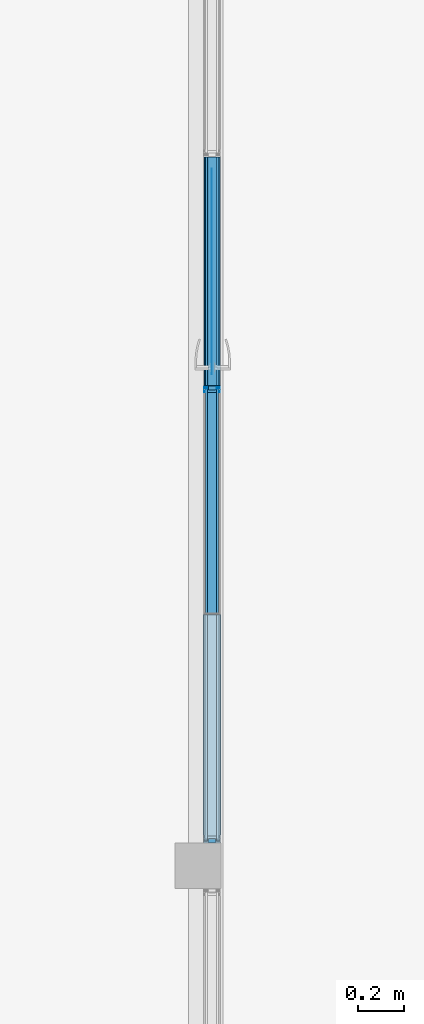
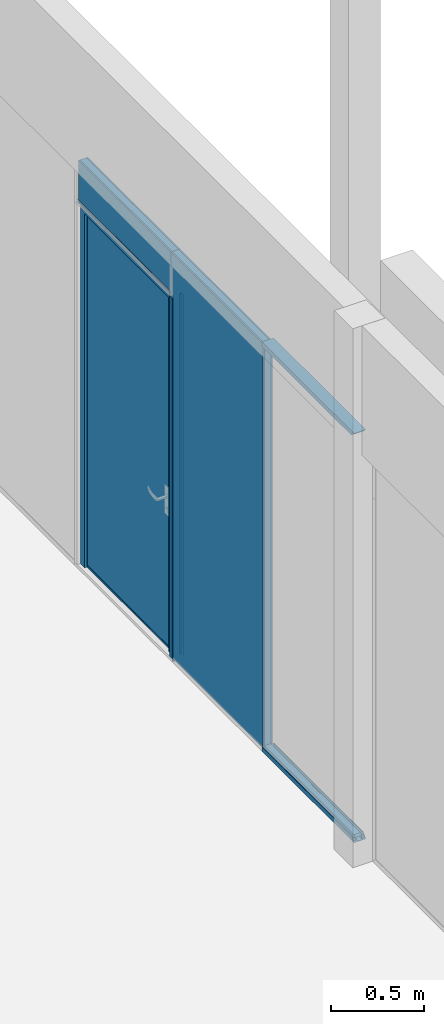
# One storey, part 34 of 65: 11 building element parts, 8 elements without a shape of their own.
"""IFC2X3 building model written with IfcOpenShell, lengths in millimetres."""

from ifc_helpers import new_model, entity, si_unit, converted_unit, derived_unit, money_unit, direction, frame, origin_with_axes, place, context, subcontext, project, spatial, open_shell, faceted_brep, surface_model, material, type_object, element, aggregate, save


model = new_model("IFC2X3")

# Units and contexts
model_context = context("Model", 3, precision=0.01, world=origin_with_axes(), true_north=direction((0.0, 1.0)))
body_context = subcontext(model_context, "Body", "Model", "MODEL_VIEW")
ifc_project = project(units=[si_unit("LENGTHUNIT", "METRE", prefix="MILLI"), si_unit("AREAUNIT", "SQUARE_METRE"), si_unit("VOLUMEUNIT", "CUBIC_METRE"), converted_unit("PLANEANGLEUNIT", "DEGREE", entity("IfcPlaneAngleMeasure", 0.0174532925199), si_unit("PLANEANGLEUNIT", "RADIAN"), dimensions=[0, 0, 0, 0, 0, 0, 0]), si_unit("SOLIDANGLEUNIT", "STERADIAN"), money_unit("EUR"), converted_unit("TIMEUNIT", "Year", entity("IfcTimeMeasure", 31556926.0), si_unit("TIMEUNIT", "SECOND"), dimensions=[0, 0, 1, 0, 0, 0, 0]), si_unit("MASSUNIT", "GRAM", prefix="KILO"), si_unit("THERMODYNAMICTEMPERATUREUNIT", "DEGREE_CELSIUS"), si_unit("LUMINOUSINTENSITYUNIT", "LUMEN"), si_unit("ENERGYUNIT", "JOULE", prefix="MEGA"), derived_unit("THERMALCONDUCTANCEUNIT", [(si_unit("POWERUNIT", "WATT"), 1), (si_unit("LENGTHUNIT", "METRE"), -1), (si_unit("THERMODYNAMICTEMPERATUREUNIT", "KELVIN"), -1)]), derived_unit("SPECIFICHEATCAPACITYUNIT", [(si_unit("ENERGYUNIT", "JOULE"), 1), (si_unit("MASSUNIT", "GRAM", prefix="KILO"), -1), (si_unit("THERMODYNAMICTEMPERATUREUNIT", "KELVIN"), -1)]), derived_unit("MASSDENSITYUNIT", [(si_unit("MASSUNIT", "GRAM", prefix="KILO"), 1), (si_unit("VOLUMEUNIT", "CUBIC_METRE"), -1)])], contexts=[model_context])

# Site, building, storey
site_placement = place(None, origin_with_axes())
site = spatial("IfcSite", under=ifc_project, at=site_placement, Name="Puškini 31, Narva", CompositionType="ELEMENT")
building_placement = place(site_placement, origin_with_axes())
building = spatial("IfcBuilding", under=site, at=building_placement, Name="Narva Riigigümnaasium", CompositionType="ELEMENT")
storey_placement = place(building_placement, frame((0.0, 0.0, -1320.0), z_axis=(0.0, 0.0, 1.0), x_axis=(1.0, 0.0, 0.0)))
storey = spatial("IfcBuildingStorey", under=building, at=storey_placement, Name="1.korrus -1.32", CompositionType="ELEMENT", Elevation=-1320.0)

# Curtain wall, plates, building element parts, door, members
curtain_wall_type = type_object("IfcCurtainWallType", Name="Curtain Wall Type", PredefinedType="NOTDEFINED")
curtain_wall_placement = place(storey_placement, frame((30362.9999948, 171898.750025, 0.0), z_axis=(0.0, 0.0, 1.0), x_axis=(1.0, 0.0, 0.0)))
curtain_wall = element("IfcCurtainWall", 1, at=curtain_wall_placement, inside=storey, type_object=curtain_wall_type, Name="G-SKLF-06")
plate_type_1 = type_object("IfcPlateType", Name="Siseklaasfassaad - Klaas 996 x 285 x 10", PredefinedType="CURTAIN_PANEL")
plate_1_placement = place(curtain_wall_placement, frame((0.0, 1064.53571429, 1457.14285714), z_axis=(0.0, 0.0, 1.0), x_axis=(0.0, -1.0, 0.0)))
plate_1 = element("IfcPlate", 2, at=plate_1_placement, type_object=plate_type_1, Name="G-SKLF-06-klaas", ObjectType="CURTAIN_PANEL")
ifc_material_1 = material(Name="VKR-05_Klaas")
building_element_part_1_placement = place(plate_1_placement, origin_with_axes())
building_element_part_1 = element("IfcBuildingElementPart", 3, at=building_element_part_1_placement, material=ifc_material_1, Name="VKR-05_Klaas", context=body_context, shape_type="Brep", body=[
    faceted_brep([(-431.714272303, -29.0, 1227.85712945), (564.285700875, -29.0, 1227.85712945), (564.285700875, -20.0, 1227.85712945), (-431.714272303, -20.0, 1227.85712945), (-431.714272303, -29.0, 942.857156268), (-416.714258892, -29.0, 942.857156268), (-416.714258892, -29.0, -1457.14285714), (-402.214303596, -29.0, -1457.14285714), (-402.214303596, -29.0, -1442.14284373), (564.285700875, -29.0, -1442.14284373), (564.285700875, -20.0, -1442.14284373), (-402.214303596, -20.0, -1442.14284373), (-402.214303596, -20.0, -1457.14285714), (-416.714258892, -20.0, -1457.14285714), (-416.714258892, -20.0, 942.857156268), (-431.714272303, -20.0, 942.857156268)], [[[0, 1, 2, 3]], [[0, 4, 5, 6, 7, 8, 9, 1]], [[1, 9, 10, 2]], [[3, 2, 10, 11, 12, 13, 14, 15]], [[4, 0, 3, 15]], [[5, 4, 15, 14]], [[6, 5, 14, 13]], [[7, 6, 13, 12]], [[8, 7, 12, 11]], [[9, 8, 11, 10]]]),
    faceted_brep([(-431.714272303, 20.0, 1227.85712945), (564.285700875, 20.0, 1227.85712945), (564.285700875, 29.0, 1227.85712945), (-431.714272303, 29.0, 1227.85712945), (-431.714272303, 20.0, 942.857156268), (-416.714258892, 20.0, 942.857156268), (-416.714258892, 20.0, -1457.14285714), (-402.214303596, 20.0, -1457.14285714), (-402.214303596, 20.0, -1442.14284373), (564.285700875, 20.0, -1442.14284373), (564.285700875, 29.0, -1442.14284373), (-402.214303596, 29.0, -1442.14284373), (-402.214303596, 29.0, -1457.14285714), (-416.714258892, 29.0, -1457.14285714), (-416.714258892, 29.0, 942.857156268), (-431.714272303, 29.0, 942.857156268)], [[[0, 1, 2, 3]], [[0, 4, 5, 6, 7, 8, 9, 1]], [[1, 9, 10, 2]], [[3, 2, 10, 11, 12, 13, 14, 15]], [[4, 0, 3, 15]], [[5, 4, 15, 14]], [[6, 5, 14, 13]], [[7, 6, 13, 12]], [[8, 7, 12, 11]], [[9, 8, 11, 10]]]),
])
ifc_material_2 = material(Name="VKR-06_Õhkvahe")
building_element_part_2_placement = place(plate_1_placement, origin_with_axes())
building_element_part_2 = element("IfcBuildingElementPart", 4, at=building_element_part_2_placement, material=ifc_material_2, Name="VKR-06_Õhkvahe", context=body_context, shape_type="Brep", body=[
    faceted_brep([(-431.714272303, -20.0, 1227.85712945), (564.285700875, -20.0, 1227.85712945), (564.285700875, 20.0, 1227.85712945), (-431.714272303, 20.0, 1227.85712945), (-431.714272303, -20.0, 942.857156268), (-416.714258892, -20.0, 942.857156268), (-416.714258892, -20.0, -1457.14285714), (-402.214303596, -20.0, -1457.14285714), (-402.214303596, -20.0, -1442.14284373), (564.285700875, -20.0, -1442.14284373), (564.285700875, 20.0, -1442.14284373), (-402.214303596, 20.0, -1442.14284373), (-402.214303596, 20.0, -1457.14285714), (-416.714258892, 20.0, -1457.14285714), (-416.714258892, 20.0, 942.857156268), (-431.714272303, 20.0, 942.857156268)], [[[0, 1, 2, 3]], [[0, 4, 5, 6, 7, 8, 9, 1]], [[1, 9, 10, 2]], [[3, 2, 10, 11, 12, 13, 14, 15]], [[4, 0, 3, 15]], [[5, 4, 15, 14]], [[6, 5, 14, 13]], [[7, 6, 13, 12]], [[8, 7, 12, 11]], [[9, 8, 11, 10]]]),
])
aggregate(plate_1, [building_element_part_1, building_element_part_2])
door_style = type_object("IfcDoorStyle", Name="968 x 2365 x 20", ConstructionType="NOTDEFINED", OperationType="NOTDEFINED", ParameterTakesPrecedence=False, Sizeable=False)
door_placement = place(curtain_wall_placement, frame((0.0, 1995.0, 1200.0), z_axis=(0.0, 0.0, 1.0), x_axis=(0.0, -1.0, 0.0)))
door = element("IfcDoor", 5, at=door_placement, type_object=door_style, Name="G-SKLF-06-U1", ObjectType="DOOR")
ifc_material_3 = material(Name="Alumiiniumprofiil")
building_element_part_3_placement = place(door_placement, origin_with_axes())
building_element_part_3 = element("IfcBuildingElementPart", 6, at=building_element_part_3_placement, material=ifc_material_3, Name="Alumiiniumprofiil", context=body_context, shape_type="Brep", body=[
    faceted_brep([(-498.75, -17.0, -1180.0), (-498.75, -17.0, 1200.0), (-498.75, -3.0, 1200.0), (-498.75, -3.0, -1180.0), (-452.75, -17.0, -1180.0), (-452.75, -17.0, 1154.0), (-452.75, -3.0, 1154.0), (-452.75, -3.0, -1180.0)], [[[0, 1, 2, 3]], [[0, 4, 5, 1]], [[1, 5, 6, 2]], [[3, 2, 6, 7]], [[4, 0, 3, 7]], [[5, 4, 7, 6]]]),
    faceted_brep([(498.75, -17.0, 1200.0), (452.75, -17.0, 1154.0), (452.75, -3.0, 1154.0), (498.75, -3.0, 1200.0), (-498.75, -17.0, 1200.0), (-452.75, -17.0, 1154.0), (-452.75, -3.0, 1154.0), (-498.75, -3.0, 1200.0)], [[[0, 1, 2, 3]], [[0, 4, 5, 1]], [[1, 5, 6, 2]], [[3, 2, 6, 7]], [[4, 0, 3, 7]], [[5, 4, 7, 6]]]),
    faceted_brep([(498.75, -17.0, -1180.0), (452.75, -17.0, -1180.0), (452.75, -3.0, -1180.0), (498.75, -3.0, -1180.0), (498.75, -17.0, 1200.0), (452.75, -17.0, 1154.0), (452.75, -3.0, 1154.0), (498.75, -3.0, 1200.0)], [[[0, 1, 2, 3]], [[0, 4, 5, 1]], [[1, 5, 6, 2]], [[3, 2, 6, 7]], [[4, 0, 3, 7]], [[5, 4, 7, 6]]]),
    faceted_brep([(-498.75, -3.0, -1180.0), (-498.75, -3.0, 1200.0), (-498.75, 37.0, 1200.0), (-498.75, 37.0, -1180.0), (-460.75, -3.0, -1180.0), (-460.75, -3.0, 1162.0), (-460.75, 37.0, 1162.0), (-460.75, 37.0, -1180.0)], [[[0, 1, 2, 3]], [[0, 4, 5, 1]], [[1, 5, 6, 2]], [[3, 2, 6, 7]], [[4, 0, 3, 7]], [[5, 4, 7, 6]]]),
    faceted_brep([(498.75, -3.0, 1200.0), (460.75, -3.0, 1162.0), (460.75, 37.0, 1162.0), (498.75, 37.0, 1200.0), (-498.75, -3.0, 1200.0), (-460.75, -3.0, 1162.0), (-460.75, 37.0, 1162.0), (-498.75, 37.0, 1200.0)], [[[0, 1, 2, 3]], [[0, 4, 5, 1]], [[1, 5, 6, 2]], [[3, 2, 6, 7]], [[4, 0, 3, 7]], [[5, 4, 7, 6]]]),
    faceted_brep([(498.75, -3.0, -1180.0), (460.75, -3.0, -1180.0), (460.75, 37.0, -1180.0), (498.75, 37.0, -1180.0), (498.75, -3.0, 1200.0), (460.75, -3.0, 1162.0), (460.75, 37.0, 1162.0), (498.75, 37.0, 1200.0)], [[[0, 1, 2, 3]], [[0, 4, 5, 1]], [[1, 5, 6, 2]], [[3, 2, 6, 7]], [[4, 0, 3, 7]], [[5, 4, 7, 6]]]),
    faceted_brep([(-498.75, -10.0, -1180.0), (-498.75, -10.0, 1200.0), (-498.75, 10.0, 1200.0), (-498.75, 10.0, -1180.0), (-483.75, -10.0, -1180.0), (-483.75, -10.0, 1185.0), (-483.75, 10.0, 1185.0), (-483.75, 10.0, -1180.0)], [[[0, 1, 2, 3]], [[0, 4, 5, 1]], [[1, 5, 6, 2]], [[3, 2, 6, 7]], [[4, 0, 3, 7]], [[5, 4, 7, 6]]]),
    faceted_brep([(-498.75, -10.0, 1200.0), (498.75, -10.0, 1200.0), (498.75, 10.0, 1200.0), (-498.75, 10.0, 1200.0), (-483.75, -10.0, 1185.0), (483.75, -10.0, 1185.0), (483.75, 10.0, 1185.0), (-483.75, 10.0, 1185.0)], [[[0, 1, 2, 3]], [[0, 4, 5, 1]], [[1, 5, 6, 2]], [[3, 2, 6, 7]], [[4, 0, 3, 7]], [[5, 4, 7, 6]]]),
    faceted_brep([(498.75, -10.0, 1200.0), (498.75, -10.0, -1180.0), (498.75, 10.0, -1180.0), (498.75, 10.0, 1200.0), (483.75, -10.0, 1185.0), (483.75, -10.0, -1180.0), (483.75, 10.0, -1180.0), (483.75, 10.0, 1185.0)], [[[0, 1, 2, 3]], [[0, 4, 5, 1]], [[1, 5, 6, 2]], [[3, 2, 6, 7]], [[4, 0, 3, 7]], [[5, 4, 7, 6]]]),
    faceted_brep([(448.75, -3.0, -1168.0), (448.75, -3.0, 1150.0), (448.75, 9.0, 1150.0), (448.75, 9.0, -1168.0), (460.75, -3.0, -1180.0), (460.75, -3.0, 1162.0), (460.75, 9.0, 1162.0), (460.75, 9.0, -1180.0)], [[[0, 1, 2, 3]], [[0, 4, 5, 1]], [[1, 5, 6, 2]], [[3, 2, 6, 7]], [[4, 0, 3, 7]], [[5, 4, 7, 6]]]),
    faceted_brep([(-460.75, -3.0, -1180.0), (-460.75, -3.0, 1162.0), (-460.75, 9.0, 1162.0), (-460.75, 9.0, -1180.0), (-448.75, -3.0, -1168.0), (-448.75, -3.0, 1150.0), (-448.75, 9.0, 1150.0), (-448.75, 9.0, -1168.0)], [[[0, 1, 2, 3]], [[0, 4, 5, 1]], [[1, 5, 6, 2]], [[3, 2, 6, 7]], [[4, 0, 3, 7]], [[5, 4, 7, 6]]]),
    faceted_brep([(-460.75, -3.0, -1180.0), (-448.75, -3.0, -1168.0), (-448.75, 9.0, -1168.0), (-460.75, 9.0, -1180.0), (460.75, -3.0, -1180.0), (448.75, -3.0, -1168.0), (448.75, 9.0, -1168.0), (460.75, 9.0, -1180.0)], [[[0, 1, 2, 3]], [[0, 4, 5, 1]], [[1, 5, 6, 2]], [[3, 2, 6, 7]], [[4, 0, 3, 7]], [[5, 4, 7, 6]]]),
    faceted_brep([(460.75, -3.0, 1162.0), (448.75, -3.0, 1150.0), (448.75, 9.0, 1150.0), (460.75, 9.0, 1162.0), (-460.75, -3.0, 1162.0), (-448.75, -3.0, 1150.0), (-448.75, 9.0, 1150.0), (-460.75, 9.0, 1162.0)], [[[0, 1, 2, 3]], [[0, 4, 5, 1]], [[1, 5, 6, 2]], [[3, 2, 6, 7]], [[4, 0, 3, 7]], [[5, 4, 7, 6]]]),
])
building_element_part_4_placement = place(door_placement, origin_with_axes())
building_element_part_4 = element("IfcBuildingElementPart", 7, at=building_element_part_4_placement, material=ifc_material_1, Name="VKR-05_Klaas", context=body_context, shape_type="SurfaceModel", body=[
    surface_model("IfcShellBasedSurfaceModel", [(448.75, -1.0, -1168.0), (448.75, -1.0, 1150.0), (-448.75, -1.0, 1150.0), (-448.75, -1.0, -1168.0)], [open_shell([[[0, 1, 2, 3]]])]),
])
aggregate(door, [building_element_part_3, building_element_part_4])
plate_type_2 = type_object("IfcPlateType", Name="998 x 270 x 0", PredefinedType="CURTAIN_PANEL")
plate_2_placement = place(curtain_wall_placement, frame((0.0, 1995.0, 2550.0), z_axis=(0.0, 0.0, 1.0), x_axis=(0.0, -1.0, 0.0)))
plate_2 = element("IfcPlate", 8, at=plate_2_placement, type_object=plate_type_2, Name="G-SKLF-06-klaas", ObjectType="CURTAIN_PANEL")
building_element_part_5_placement = place(plate_2_placement, origin_with_axes())
building_element_part_5 = element("IfcBuildingElementPart", 9, at=building_element_part_5_placement, material=ifc_material_1, Name="VKR-05_Klaas", context=body_context, shape_type="Brep", body=[
    faceted_brep([(-498.75, -29.0, 134.999987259), (498.75, -29.0, 134.999987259), (498.75, -20.0, 134.999987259), (-498.75, -20.0, 134.999987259), (-498.75, -29.0, -134.99998346), (498.75, -29.0, -134.99998346), (498.75, -20.0, -134.99998346), (-498.75, -20.0, -134.99998346)], [[[0, 1, 2, 3]], [[0, 4, 5, 1]], [[1, 5, 6, 2]], [[3, 2, 6, 7]], [[4, 0, 3, 7]], [[5, 4, 7, 6]]]),
    faceted_brep([(-498.75, 20.0, 134.999987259), (498.75, 20.0, 134.999987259), (498.75, 29.0, 134.999987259), (-498.75, 29.0, 134.999987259), (-498.75, 20.0, -134.99998346), (498.75, 20.0, -134.99998346), (498.75, 29.0, -134.99998346), (-498.75, 29.0, -134.99998346)], [[[0, 1, 2, 3]], [[0, 4, 5, 1]], [[1, 5, 6, 2]], [[3, 2, 6, 7]], [[4, 0, 3, 7]], [[5, 4, 7, 6]]]),
])
building_element_part_6_placement = place(plate_2_placement, origin_with_axes())
building_element_part_6 = element("IfcBuildingElementPart", 10, at=building_element_part_6_placement, material=ifc_material_2, Name="VKR-06_Õhkvahe", context=body_context, shape_type="Brep", body=[
    faceted_brep([(-498.75, -20.0, 134.999987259), (498.75, -20.0, 134.999987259), (498.75, 20.0, 134.999987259), (-498.75, 20.0, 134.999987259), (-498.75, -20.0, -134.99998346), (498.75, -20.0, -134.99998346), (498.75, 20.0, -134.99998346), (-498.75, 20.0, -134.99998346)], [[[0, 1, 2, 3]], [[0, 4, 5, 1]], [[1, 5, 6, 2]], [[3, 2, 6, 7]], [[4, 0, 3, 7]], [[5, 4, 7, 6]]]),
])
aggregate(plate_2, [building_element_part_5, building_element_part_6])
member_type_1 = type_object("IfcMemberType", Name="30 x 37", PredefinedType="MULLION")
member_1_placement = place(curtain_wall_placement, frame((0.0, -498.75, 0.0), z_axis=(0.0, 1.0, 0.0), x_axis=(0.0, 0.0, 1.0)))
member_1 = element("IfcMember", 11, at=member_1_placement, type_object=member_type_1, Name="G-SKLF-06-raam", ObjectType="MULLION")
ifc_material_4 = material(Name="Teras RAL7012")
building_element_part_7_placement = place(member_1_placement, origin_with_axes())
building_element_part_7 = element("IfcBuildingElementPart", 12, at=building_element_part_7_placement, material=ifc_material_4, Name="Teras RAL7012", context=body_context, shape_type="Brep", body=[
    faceted_brep([(29.5999996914, -17.0000000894, 29.5999996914), (29.5999996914, -17.0000000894, 997.5), (0.0, -17.0000000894, 997.5), (0.0, -17.0000000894, 0.0), (29.5999996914, 17.0000000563, 29.5999996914), (29.5999996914, 17.0000000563, 997.5), (0.0, 17.0000000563, 997.5), (1.9999999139, 15.0000001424, 997.5), (18.7999996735, 15.0000001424, 997.5), (18.7999996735, -15.0000001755, 997.5), (1.9999999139, -15.0000001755, 997.5), (0.0, 17.0000000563, 0.0), (1.9999999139, 15.0000001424, 1.9999999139), (1.9999999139, -15.0000001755, 1.9999999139), (18.7999996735, -15.0000001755, 18.7999996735), (18.7999996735, 15.0000001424, 18.7999996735)], [[[0, 1, 2, 3]], [[4, 5, 1, 0]], [[2, 1, 5, 6], [7, 8, 9, 10]], [[3, 2, 6, 11]], [[3, 11, 4, 0], [12, 13, 14, 15]], [[11, 6, 5, 4]], [[15, 8, 7, 12]], [[14, 9, 8, 15]], [[13, 10, 9, 14]], [[12, 7, 10, 13]]]),
    faceted_brep([(29.5999996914, 17.0000000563, 29.5999996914), (29.5999996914, 17.0000000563, 997.5), (0.0, 17.0, 997.5), (0.0, 17.0, 0.0), (30.0000193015, 17.0, 30.0000193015), (30.0000193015, 17.0, 997.5), (30.0000193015, 20.0, 997.5), (13.8499999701, 20.000000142, 997.5), (7.49999999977, 20.0, 997.5), (7.49999999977, 34.0161444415, 997.5), (13.8499999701, 34.0161444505, 997.5), (24.987414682, 34.0161444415, 997.5), (28.5126239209, 34.0161444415, 997.5), (30.0000193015, 34.0161444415, 997.5), (30.0000193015, 37.0, 997.5), (0.0, 37.0, 997.5), (0.0, 37.0, 0.0), (30.0000193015, 37.0, 30.0000193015), (30.0000193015, 34.0161444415, 30.0000193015), (28.5126239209, 34.0161444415, 28.5126239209), (24.987414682, 34.0161444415, 24.987414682), (13.8499999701, 34.0161444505, 13.8499999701), (7.49999999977, 34.0161444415, 7.49999999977), (7.49999999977, 20.0, 7.49999999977), (13.8499999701, 20.000000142, 13.8499999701), (30.0000193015, 20.0, 30.0000193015)], [[[0, 1, 2, 3]], [[4, 5, 1, 0]], [[2, 1, 5, 6, 7, 8, 9, 10, 11, 12, 13, 14, 15]], [[3, 2, 15, 16]], [[3, 16, 17, 18, 19, 20, 21, 22, 23, 24, 25, 4, 0]], [[25, 6, 5, 4]], [[24, 7, 6, 25]], [[23, 8, 7, 24]], [[22, 9, 8, 23]], [[21, 10, 9, 22]], [[20, 11, 10, 21]], [[19, 12, 11, 20]], [[18, 13, 12, 19]], [[17, 14, 13, 18]], [[16, 15, 14, 17]]]),
    faceted_brep([(0.0, -37.0, 0.0), (0.0, -37.0, 997.5), (0.0, -17.0, 997.5), (0.0, -17.0, 0.0), (30.0000193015, -37.0, 30.0000193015), (30.0000193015, -37.0, 997.5), (30.0000193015, -34.0161444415, 997.5), (28.5126239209, -34.0161444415, 997.5), (24.987414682, -34.0161444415, 997.5), (13.8499999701, -34.0161445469, 997.5), (7.49999999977, -34.0161444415, 997.5), (7.49999999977, -20.0, 997.5), (13.8499999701, -19.9999997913, 997.5), (30.0000193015, -20.0, 997.5), (30.0000193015, -17.0, 997.5), (29.5999996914, -17.0000000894, 997.5), (29.5999996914, -17.0000000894, 29.5999996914), (30.0000193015, -17.0, 30.0000193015), (30.0000193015, -20.0, 30.0000193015), (13.8499999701, -19.9999997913, 13.8499999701), (7.49999999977, -20.0, 7.49999999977), (7.49999999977, -34.0161444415, 7.49999999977), (13.8499999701, -34.0161445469, 13.8499999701), (24.987414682, -34.0161444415, 24.987414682), (28.5126239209, -34.0161444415, 28.5126239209), (30.0000193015, -34.0161444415, 30.0000193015)], [[[0, 1, 2, 3]], [[4, 5, 1, 0]], [[2, 1, 5, 6, 7, 8, 9, 10, 11, 12, 13, 14, 15]], [[3, 2, 15, 16]], [[3, 16, 17, 18, 19, 20, 21, 22, 23, 24, 25, 4, 0]], [[25, 6, 5, 4]], [[24, 7, 6, 25]], [[23, 8, 7, 24]], [[22, 9, 8, 23]], [[21, 10, 9, 22]], [[20, 11, 10, 21]], [[19, 12, 11, 20]], [[18, 13, 12, 19]], [[17, 14, 13, 18]], [[16, 15, 14, 17]]]),
])
aggregate(member_1, [building_element_part_7])
member_type_2 = type_object("IfcMemberType", Name="30 x 27", PredefinedType="MULLION")
member_2_placement = place(curtain_wall_placement, frame((0.0, 1496.25, 0.0), z_axis=(0.0, 0.0, 1.0), x_axis=(0.0, -1.0, 0.0)))
member_2 = element("IfcMember", 13, at=member_2_placement, type_object=member_type_2, Name="G-SKLF-06-raam", ObjectType="MULLION")
ifc_material_5 = material(Name="Klaasvill")
building_element_part_8_placement = place(member_2_placement, origin_with_axes())
building_element_part_8 = element("IfcBuildingElementPart", 14, at=building_element_part_8_placement, material=ifc_material_5, Name="Klaasvill", context=body_context, shape_type="Brep", body=[
    faceted_brep([(13.8499999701, 20.000000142, 20.0), (13.8499999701, 20.000000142, 2400.0), (7.49999990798, 20.000000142, 2400.0), (7.49999990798, 20.000000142, 20.0), (13.8499999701, 34.0161444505, 20.0), (13.8499999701, 34.0161444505, 2400.0), (7.49999990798, 34.0161444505, 2400.0), (7.49999990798, 34.0161444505, 20.0)], [[[0, 1, 2, 3]], [[4, 5, 1, 0]], [[2, 1, 5, 6]], [[3, 2, 6, 7]], [[3, 7, 4, 0]], [[7, 6, 5, 4]]]),
    faceted_brep([(25.004489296, 32.0307503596, 20.0), (25.004489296, 32.0307503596, 2400.0), (24.987414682, 34.0161444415, 2400.0), (24.987414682, 34.0161444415, 20.0), (25.742237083, 31.2930025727, 20.0), (25.742237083, 31.2930025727, 2400.0), (26.7500193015, 31.0229681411, 2400.0), (27.75780152, 31.2930025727, 2400.0), (28.4955493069, 32.0307503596, 2400.0), (28.7655837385, 33.0385325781, 2400.0), (28.5126239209, 34.0161444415, 2400.0), (28.5126239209, 34.0161444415, 20.0), (28.7655837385, 33.0385325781, 20.0), (28.4955493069, 32.0307503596, 20.0), (27.75780152, 31.2930025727, 20.0), (26.7500193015, 31.0229681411, 20.0)], [[[0, 1, 2, 3]], [[4, 5, 1, 0]], [[2, 1, 5, 6, 7, 8, 9, 10]], [[3, 2, 10, 11]], [[3, 11, 12, 13, 14, 15, 4, 0]], [[15, 6, 5, 4]], [[14, 7, 6, 15]], [[13, 8, 7, 14]], [[12, 9, 8, 13]], [[11, 10, 9, 12]]]),
    faceted_brep([(7.49999990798, -34.0161445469, 20.0), (7.49999990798, -34.0161445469, 2400.0), (7.49999990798, -19.9999997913, 2400.0), (7.49999990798, -19.9999997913, 20.0), (13.8499999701, -34.0161445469, 20.0), (13.8499999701, -34.0161445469, 2400.0), (13.8499999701, -19.9999997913, 2400.0), (13.8499999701, -19.9999997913, 20.0)], [[[0, 1, 2, 3]], [[4, 5, 1, 0]], [[2, 1, 5, 6]], [[3, 2, 6, 7]], [[3, 7, 4, 0]], [[7, 6, 5, 4]]]),
    faceted_brep([(24.987414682, -34.0161444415, 20.0), (24.987414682, -34.0161444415, 2400.0), (25.004489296, -32.0307503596, 2400.0), (25.004489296, -32.0307503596, 20.0), (28.5126239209, -34.0161444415, 20.0), (28.5126239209, -34.0161444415, 2400.0), (28.7655837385, -33.0385325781, 2400.0), (28.4955493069, -32.0307503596, 2400.0), (27.75780152, -31.2930025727, 2400.0), (26.7500193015, -31.0229681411, 2400.0), (25.742237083, -31.2930025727, 2400.0), (25.742237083, -31.2930025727, 20.0), (26.7500193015, -31.0229681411, 20.0), (27.75780152, -31.2930025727, 20.0), (28.4955493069, -32.0307503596, 20.0), (28.7655837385, -33.0385325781, 20.0)], [[[0, 1, 2, 3]], [[4, 5, 1, 0]], [[2, 1, 5, 6, 7, 8, 9, 10]], [[3, 2, 10, 11]], [[3, 11, 12, 13, 14, 15, 4, 0]], [[15, 6, 5, 4]], [[14, 7, 6, 15]], [[13, 8, 7, 14]], [[12, 9, 8, 13]], [[11, 10, 9, 12]]]),
])
building_element_part_9_placement = place(member_2_placement, origin_with_axes())
building_element_part_9 = element("IfcBuildingElementPart", 15, at=building_element_part_9_placement, material=ifc_material_4, Name="Teras RAL7012", context=body_context, shape_type="Brep", body=[
    faceted_brep([(29.5999996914, -17.0000000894, 20.0), (29.5999996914, -17.0000000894, 2400.0), (0.0, -17.0000000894, 2400.0), (0.0, -17.0000000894, 20.0), (29.5999996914, 17.0000000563, 20.0), (29.5999996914, 17.0000000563, 2400.0), (0.0, 17.0000000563, 2400.0), (1.9999999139, 15.0000001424, 2400.0), (18.7999996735, 15.0000001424, 2400.0), (18.7999996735, -15.0000001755, 2400.0), (1.9999999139, -15.0000001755, 2400.0), (0.0, 17.0000000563, 20.0), (1.9999999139, 15.0000001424, 20.0), (1.9999999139, -15.0000001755, 20.0), (18.7999996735, -15.0000001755, 20.0), (18.7999996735, 15.0000001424, 20.0)], [[[0, 1, 2, 3]], [[4, 5, 1, 0]], [[2, 1, 5, 6], [7, 8, 9, 10]], [[3, 2, 6, 11]], [[3, 11, 4, 0], [12, 13, 14, 15]], [[11, 6, 5, 4]], [[15, 8, 7, 12]], [[14, 9, 8, 15]], [[13, 10, 9, 14]], [[12, 7, 10, 13]]]),
    faceted_brep([(29.5999996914, 17.0000000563, 20.0), (29.5999996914, 17.0000000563, 2400.0), (0.0, 17.0, 2400.0), (0.0, 17.0, 20.0), (30.0000193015, 17.0, 20.0), (30.0000193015, 17.0, 2400.0), (30.0000193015, 20.0, 2400.0), (13.8499999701, 20.000000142, 2400.0), (7.49999999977, 20.0, 2400.0), (7.49999999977, 34.0161444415, 2400.0), (13.8499999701, 34.0161444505, 2400.0), (24.987414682, 34.0161444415, 2400.0), (28.5126239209, 34.0161444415, 2400.0), (30.0000193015, 34.0161444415, 2400.0), (30.0000193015, 37.0, 2400.0), (0.0, 37.0, 2400.0), (0.0, 37.0, 20.0), (30.0000193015, 37.0, 20.0), (30.0000193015, 34.0161444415, 20.0), (28.5126239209, 34.0161444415, 20.0), (24.987414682, 34.0161444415, 20.0), (13.8499999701, 34.0161444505, 20.0), (7.49999999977, 34.0161444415, 20.0), (7.49999999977, 20.0, 20.0), (13.8499999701, 20.000000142, 20.0), (30.0000193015, 20.0, 20.0)], [[[0, 1, 2, 3]], [[4, 5, 1, 0]], [[2, 1, 5, 6, 7, 8, 9, 10, 11, 12, 13, 14, 15]], [[3, 2, 15, 16]], [[3, 16, 17, 18, 19, 20, 21, 22, 23, 24, 25, 4, 0]], [[25, 6, 5, 4]], [[24, 7, 6, 25]], [[23, 8, 7, 24]], [[22, 9, 8, 23]], [[21, 10, 9, 22]], [[20, 11, 10, 21]], [[19, 12, 11, 20]], [[18, 13, 12, 19]], [[17, 14, 13, 18]], [[16, 15, 14, 17]]]),
    faceted_brep([(0.0, -37.0, 20.0), (0.0, -37.0, 2400.0), (0.0, -17.0, 2400.0), (0.0, -17.0, 20.0), (30.0000193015, -37.0, 20.0), (30.0000193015, -37.0, 2400.0), (30.0000193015, -34.0161444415, 2400.0), (28.5126239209, -34.0161444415, 2400.0), (24.987414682, -34.0161444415, 2400.0), (13.8499999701, -34.0161445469, 2400.0), (7.49999999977, -34.0161444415, 2400.0), (7.49999999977, -20.0, 2400.0), (13.8499999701, -19.9999997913, 2400.0), (30.0000193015, -20.0, 2400.0), (30.0000193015, -17.0, 2400.0), (29.5999996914, -17.0000000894, 2400.0), (29.5999996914, -17.0000000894, 20.0), (30.0000193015, -17.0, 20.0), (30.0000193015, -20.0, 20.0), (13.8499999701, -19.9999997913, 20.0), (7.49999999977, -20.0, 20.0), (7.49999999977, -34.0161444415, 20.0), (13.8499999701, -34.0161445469, 20.0), (24.987414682, -34.0161444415, 20.0), (28.5126239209, -34.0161444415, 20.0), (30.0000193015, -34.0161444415, 20.0)], [[[0, 1, 2, 3]], [[4, 5, 1, 0]], [[2, 1, 5, 6, 7, 8, 9, 10, 11, 12, 13, 14, 15]], [[3, 2, 15, 16]], [[3, 16, 17, 18, 19, 20, 21, 22, 23, 24, 25, 4, 0]], [[25, 6, 5, 4]], [[24, 7, 6, 25]], [[23, 8, 7, 24]], [[22, 9, 8, 23]], [[21, 10, 9, 22]], [[20, 11, 10, 21]], [[19, 12, 11, 20]], [[18, 13, 12, 19]], [[17, 14, 13, 18]], [[16, 15, 14, 17]]]),
])
aggregate(member_2, [building_element_part_8, building_element_part_9])
member_3_placement = place(curtain_wall_placement, frame((0.0, -498.75, 2700.0), z_axis=(0.0, 1.0, 0.0), x_axis=(0.0, 0.0, 1.0)))
member_3 = element("IfcMember", 16, at=member_3_placement, type_object=member_type_1, Name="G-SKLF-06-raam", ObjectType="MULLION")
building_element_part_10_placement = place(member_3_placement, origin_with_axes())
building_element_part_10 = element("IfcBuildingElementPart", 17, at=building_element_part_10_placement, material=ifc_material_4, Name="Teras RAL7012", context=body_context, shape_type="Brep", body=[
    faceted_brep([(-29.5999996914, -17.0000000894, 29.5999996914), (0.0, -17.0000000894, 0.0), (0.0, -17.0000000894, 997.5), (-29.5999996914, -17.0000000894, 997.5), (-29.5999996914, 17.0000000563, 29.5999996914), (0.0, 17.0000000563, 0.0), (-1.9999999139, 15.0000001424, 1.9999999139), (-18.7999996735, 15.0000001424, 18.7999996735), (-18.7999996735, -15.0000001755, 18.7999996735), (-1.9999999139, -15.0000001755, 1.9999999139), (0.0, 17.0000000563, 997.5), (-29.5999996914, 17.0000000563, 997.5), (-1.9999999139, 15.0000001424, 997.5), (-1.9999999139, -15.0000001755, 997.5), (-18.7999996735, -15.0000001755, 997.5), (-18.7999996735, 15.0000001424, 997.5)], [[[0, 1, 2, 3]], [[1, 0, 4, 5], [6, 7, 8, 9]], [[1, 5, 10, 2]], [[2, 10, 11, 3], [12, 13, 14, 15]], [[4, 0, 3, 11]], [[5, 4, 11, 10]], [[7, 6, 12, 15]], [[8, 7, 15, 14]], [[9, 8, 14, 13]], [[6, 9, 13, 12]]]),
    faceted_brep([(-29.5999996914, 17.0000000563, 29.5999996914), (0.0, 17.0, 0.0), (0.0, 17.0, 997.5), (-29.5999996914, 17.0000000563, 997.5), (-30.0000193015, 17.0, 30.0000193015), (-30.0000193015, 20.0, 30.0000193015), (-13.8499999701, 20.000000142, 13.8499999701), (-7.49999999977, 20.0, 7.49999999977), (-7.49999999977, 34.0161444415, 7.49999999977), (-13.8499999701, 34.0161444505, 13.8499999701), (-24.987414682, 34.0161444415, 24.987414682), (-28.5126239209, 34.0161444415, 28.5126239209), (-30.0000193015, 34.0161444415, 30.0000193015), (-30.0000193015, 37.0, 30.0000193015), (0.0, 37.0, 0.0), (0.0, 37.0, 997.5), (-30.0000193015, 37.0, 997.5), (-30.0000193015, 34.0161444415, 997.5), (-28.5126239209, 34.0161444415, 997.5), (-24.987414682, 34.0161444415, 997.5), (-13.8499999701, 34.0161444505, 997.5), (-7.49999999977, 34.0161444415, 997.5), (-7.49999999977, 20.0, 997.5), (-13.8499999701, 20.000000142, 997.5), (-30.0000193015, 20.0, 997.5), (-30.0000193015, 17.0, 997.5)], [[[0, 1, 2, 3]], [[1, 0, 4, 5, 6, 7, 8, 9, 10, 11, 12, 13, 14]], [[1, 14, 15, 2]], [[2, 15, 16, 17, 18, 19, 20, 21, 22, 23, 24, 25, 3]], [[4, 0, 3, 25]], [[5, 4, 25, 24]], [[6, 5, 24, 23]], [[7, 6, 23, 22]], [[8, 7, 22, 21]], [[9, 8, 21, 20]], [[10, 9, 20, 19]], [[11, 10, 19, 18]], [[12, 11, 18, 17]], [[13, 12, 17, 16]], [[14, 13, 16, 15]]]),
    faceted_brep([(0.0, -37.0, 0.0), (0.0, -17.0, 0.0), (0.0, -17.0, 997.5), (0.0, -37.0, 997.5), (-30.0000193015, -37.0, 30.0000193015), (-30.0000193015, -34.0161444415, 30.0000193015), (-28.5126239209, -34.0161444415, 28.5126239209), (-24.987414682, -34.0161444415, 24.987414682), (-13.8499999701, -34.0161445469, 13.8499999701), (-7.49999999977, -34.0161444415, 7.49999999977), (-7.49999999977, -20.0, 7.49999999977), (-13.8499999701, -19.9999997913, 13.8499999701), (-30.0000193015, -20.0, 30.0000193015), (-30.0000193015, -17.0, 30.0000193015), (-29.5999996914, -17.0000000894, 29.5999996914), (-29.5999996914, -17.0000000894, 997.5), (-30.0000193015, -17.0, 997.5), (-30.0000193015, -20.0, 997.5), (-13.8499999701, -19.9999997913, 997.5), (-7.49999999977, -20.0, 997.5), (-7.49999999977, -34.0161444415, 997.5), (-13.8499999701, -34.0161445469, 997.5), (-24.987414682, -34.0161444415, 997.5), (-28.5126239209, -34.0161444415, 997.5), (-30.0000193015, -34.0161444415, 997.5), (-30.0000193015, -37.0, 997.5)], [[[0, 1, 2, 3]], [[1, 0, 4, 5, 6, 7, 8, 9, 10, 11, 12, 13, 14]], [[1, 14, 15, 2]], [[2, 15, 16, 17, 18, 19, 20, 21, 22, 23, 24, 25, 3]], [[4, 0, 3, 25]], [[5, 4, 25, 24]], [[6, 5, 24, 23]], [[7, 6, 23, 22]], [[8, 7, 22, 21]], [[9, 8, 21, 20]], [[10, 9, 20, 19]], [[11, 10, 19, 18]], [[12, 11, 18, 17]], [[13, 12, 17, 16]], [[14, 13, 16, 15]]]),
])
aggregate(member_3, [building_element_part_10])
member_4_placement = place(curtain_wall_placement, frame((0.0, 1496.25, 2400.0), z_axis=(0.0, 1.0, 0.0), x_axis=(0.0, 0.0, 1.0)))
member_4 = element("IfcMember", 18, at=member_4_placement, type_object=member_type_2, Name="G-SKLF-06-raam", ObjectType="MULLION")
aggregate(curtain_wall, [door, member_1, member_2, member_3, member_4, plate_1, plate_2])
building_element_part_11_placement = place(member_4_placement, origin_with_axes())
building_element_part_11 = element("IfcBuildingElementPart", 19, at=building_element_part_11_placement, material=ifc_material_5, Name="Klaasvill", context=body_context, shape_type="Brep", body=[
    faceted_brep([(7.49999990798, 20.000000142, 0.0), (13.8499999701, 20.000000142, 0.0), (13.8499999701, 20.000000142, 997.5), (7.49999990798, 20.000000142, 997.5), (7.49999990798, 34.0161444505, 0.0), (13.8499999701, 34.0161444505, 0.0), (13.8499999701, 34.0161444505, 997.5), (7.49999990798, 34.0161444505, 997.5)], [[[0, 1, 2, 3]], [[0, 4, 5, 1]], [[1, 5, 6, 2]], [[3, 2, 6, 7]], [[4, 0, 3, 7]], [[5, 4, 7, 6]]]),
    faceted_brep([(24.987414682, 34.0161444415, 0.0), (25.004489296, 32.0307503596, 0.0), (25.004489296, 32.0307503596, 997.5), (24.987414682, 34.0161444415, 997.5), (28.5126239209, 34.0161444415, 0.0), (28.7655837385, 33.0385325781, 0.0), (28.4955493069, 32.0307503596, 0.0), (27.75780152, 31.2930025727, 0.0), (26.7500193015, 31.0229681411, 0.0), (25.742237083, 31.2930025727, 0.0), (25.742237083, 31.2930025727, 997.5), (26.7500193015, 31.0229681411, 997.5), (27.75780152, 31.2930025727, 997.5), (28.4955493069, 32.0307503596, 997.5), (28.7655837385, 33.0385325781, 997.5), (28.5126239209, 34.0161444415, 997.5)], [[[0, 1, 2, 3]], [[0, 4, 5, 6, 7, 8, 9, 1]], [[1, 9, 10, 2]], [[3, 2, 10, 11, 12, 13, 14, 15]], [[4, 0, 3, 15]], [[5, 4, 15, 14]], [[6, 5, 14, 13]], [[7, 6, 13, 12]], [[8, 7, 12, 11]], [[9, 8, 11, 10]]]),
    faceted_brep([(7.49999990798, -19.9999997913, 0.0), (7.49999990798, -34.0161445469, 0.0), (7.49999990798, -34.0161445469, 997.5), (7.49999990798, -19.9999997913, 997.5), (13.8499999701, -19.9999997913, 0.0), (13.8499999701, -34.0161445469, 0.0), (13.8499999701, -34.0161445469, 997.5), (13.8499999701, -19.9999997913, 997.5)], [[[0, 1, 2, 3]], [[0, 4, 5, 1]], [[1, 5, 6, 2]], [[3, 2, 6, 7]], [[4, 0, 3, 7]], [[5, 4, 7, 6]]]),
    faceted_brep([(25.004489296, -32.0307503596, 0.0), (24.987414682, -34.0161444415, 0.0), (24.987414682, -34.0161444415, 997.5), (25.004489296, -32.0307503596, 997.5), (25.742237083, -31.2930025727, 0.0), (26.7500193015, -31.0229681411, 0.0), (27.75780152, -31.2930025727, 0.0), (28.4955493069, -32.0307503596, 0.0), (28.7655837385, -33.0385325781, 0.0), (28.5126239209, -34.0161444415, 0.0), (28.5126239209, -34.0161444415, 997.5), (28.7655837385, -33.0385325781, 997.5), (28.4955493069, -32.0307503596, 997.5), (27.75780152, -31.2930025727, 997.5), (26.7500193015, -31.0229681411, 997.5), (25.742237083, -31.2930025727, 997.5)], [[[0, 1, 2, 3]], [[0, 4, 5, 6, 7, 8, 9, 1]], [[1, 9, 10, 2]], [[3, 2, 10, 11, 12, 13, 14, 15]], [[4, 0, 3, 15]], [[5, 4, 15, 14]], [[6, 5, 14, 13]], [[7, 6, 13, 12]], [[8, 7, 12, 11]], [[9, 8, 11, 10]]]),
])
aggregate(member_4, [building_element_part_11])

save(model, "model.ifc")
